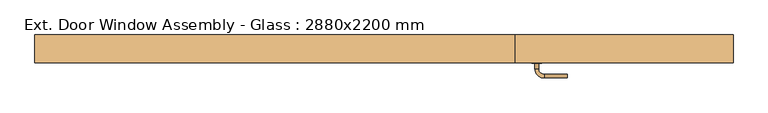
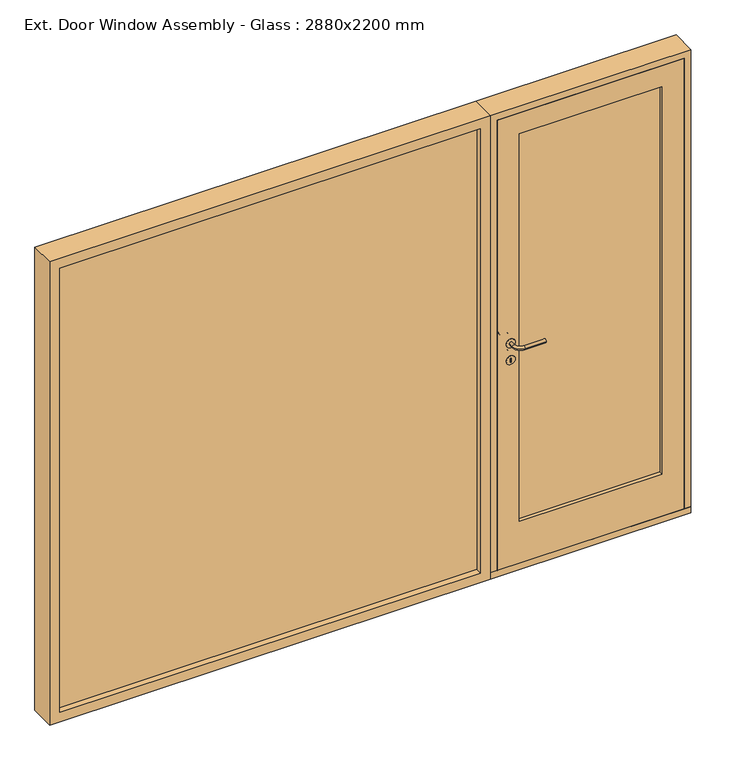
"""IFC4 building model written with IfcOpenShell, lengths in millimetres: door geometry, Ext. Door Window Assembly - Glass : 2880x2200 mm."""

from ifc_helpers import new_model, si_unit, point, frame, frame_2d, origin, place, context, project, spatial, polyline, circle_curve, ellipse_curve, trimmed, segment, composite_curve, outline, extrude, faceted_brep, source, transform, mapped, element, save
from ifc_brep_helpers import plane_surface, cylinder_surface, revolved_surface, advanced_brep


def ext_door_window_assembly_glass_2880x2200_mm_93a1fc79(model_context):
    return source(origin(), model_context, "Body", "SolidModel", [
        extrude(outline(polyline([(495.0, -140.0), (495.0, -162.0), (-1395.0, -162.0), (-1395.0, -140.0), (495.0, -140.0)])), frame((0.0, 0.0, 45.0), z_axis=(0.0, 0.0, 1.0), x_axis=(1.0, 0.0, 0.0)), (0.0, 0.0, 1.0), 2110.0),
        extrude(outline(polyline([(0.0, 540.0), (2200.0, 540.0), (2200.0, -1440.0), (0.0, -1440.0), (0.0, 540.0)]), holes=[polyline([(2155.0, 495.0), (45.0, 495.0), (45.0, -1395.0), (2155.0, -1395.0), (2155.0, 495.0)])]), frame((0.0, -190.0, 0.0), z_axis=(0.0, 1.0, 0.0), x_axis=(0.0, 0.0, 1.0)), (0.0, 0.0, 1.0), 115.0),
        extrude(outline(composite_curve([segment(trimmed(circle_curve(frame_2d((1090.0, 630.0)), 20.0), [point((1070.0, 630.0))], [point((1110.0, 630.0))], False, "CARTESIAN"), True, "CONTINUOUS"), segment(trimmed(circle_curve(frame_2d((1090.0, 630.0)), 20.0), [point((1110.0, 630.0))], [point((1070.0, 630.0))], False, "CARTESIAN"), True, "CONTINUOUS")], self_intersect=False)), frame((0.0, -192.0, 0.0), z_axis=(0.0, 1.0, 0.0), x_axis=(0.0, 0.0, 1.0)), (0.0, 0.0, 1.0), 2.0),
        advanced_brep(
        [(622.5, -192.0, 1090.0), (637.5, -192.0, 1090.0), (637.5, -214.5, 1090.0), (622.5, -214.5, 1090.0), (660.0, -237.0, 1090.0), (660.0, -252.0, 1090.0), (755.0, -237.0, 1090.0), (755.0, -252.0, 1090.0)],
        [
            (0, 1, circle_curve(frame((630.0, -192.0, 1090.0), z_axis=(0.0, 1.0, 0.0), x_axis=(1.0, 0.0, 0.0)), 7.5)),
            (1, 0, circle_curve(frame((630.0, -192.0, 1090.0), z_axis=(0.0, 1.0, 0.0), x_axis=(1.0, 0.0, 0.0)), 7.5)),
            (1, 2),
            (2, 3, circle_curve(frame((630.0, -214.5, 1090.0), z_axis=(0.0, 1.0, 0.0), x_axis=(1.0, 0.0, 0.0)), 7.5)),
            (3, 0),
            (3, 2, circle_curve(frame((630.0, -214.5, 1090.0), z_axis=(0.0, 1.0, 0.0), x_axis=(1.0, 0.0, 0.0)), 7.5)),
            (4, 5, circle_curve(frame((660.0, -244.5, 1090.0), z_axis=(-1.0, 0.0, 0.0), x_axis=(0.0, 1.0, 0.0)), 7.5)),
            (5, 3, circle_curve(frame((660.0, -214.5, 1090.0), z_axis=(0.0, 0.0, -1.0), x_axis=(-1.0, 0.0, 0.0)), 37.5)),
            (2, 4, circle_curve(frame((660.0, -214.5, 1090.0), z_axis=(0.0, 0.0, 1.0), x_axis=(-1.0, 0.0, 0.0)), 22.5)),
            (5, 4, circle_curve(frame((660.0, -244.5, 1090.0), z_axis=(-1.0, 0.0, 0.0), x_axis=(0.0, 1.0, 0.0)), 7.5)),
            (4, 6),
            (6, 7, circle_curve(frame((755.0, -244.5, 1090.0), z_axis=(-1.0, 0.0, 0.0), x_axis=(0.0, 1.0, 0.0)), 7.5)),
            (7, 5),
            (7, 6, circle_curve(frame((755.0, -244.5, 1090.0), z_axis=(-1.0, 0.0, 0.0), x_axis=(0.0, 1.0, 0.0)), 7.5)),
        ],
        [
            plane_surface(frame((630.0, -192.0, 1090.0), z_axis=(0.0, 1.0, 0.0), x_axis=(0.0, 0.0, -1.0))),
            cylinder_surface(frame((630.0, -192.0, 1090.0), z_axis=(0.0, 1.0, 0.0), x_axis=(1.0, 0.0, 0.0)), 7.5),
            revolved_surface(trimmed(ellipse_curve(frame((630.0, -214.5, 1090.0), z_axis=(0.0, -1.0, 0.0), x_axis=(1.0, 0.0, 0.0)), 7.5, 7.5), [point((622.5, -214.5, 1090.0))], [point((637.5, -214.5, 1090.0))], True, "CARTESIAN"), (660.0, -214.5, 1090.0), (0.0, 0.0, -1.0)),
            revolved_surface(trimmed(ellipse_curve(frame((630.0, -214.5, 1090.0), z_axis=(0.0, -1.0, 0.0), x_axis=(1.0, 0.0, 0.0)), 7.5, 7.5), [point((637.5, -214.5, 1090.0))], [point((622.5, -214.5, 1090.0))], True, "CARTESIAN"), (660.0, -214.5, 1090.0), (0.0, 0.0, -1.0)),
            cylinder_surface(frame((660.0, -244.5, 1090.0), z_axis=(-1.0, 0.0, 0.0), x_axis=(0.0, 1.0, 0.0)), 7.5),
            plane_surface(frame((755.0, -244.5, 1090.0), z_axis=(1.0, 0.0, 0.0), x_axis=(0.0, 0.0, -1.0))),
        ],
        [
            (0, [[1, 2]]),
            (1, [[3, 4, 5, -2]]),
            (1, [[-5, 6, -3, -1]]),
            (2, [[7, 8, -4, 9]]),
            (3, [[10, -9, -6, -8]]),
            (4, [[11, 12, 13, -7]]),
            (4, [[-13, 14, -11, -10]]),
            (5, [[-12, -14]]),
        ],
    ),
        extrude(outline(composite_curve([segment(trimmed(circle_curve(frame_2d((1010.0, 630.0)), 20.0), [point((990.0, 630.0))], [point((1030.0, 630.0))], False, "CARTESIAN"), True, "CONTINUOUS"), segment(trimmed(circle_curve(frame_2d((1010.0, 630.0)), 20.0), [point((1030.0, 630.0))], [point((990.0, 630.0))], False, "CARTESIAN"), True, "CONTINUOUS")], self_intersect=False), holes=[composite_curve([segment(trimmed(circle_curve(frame_2d((1015.0, 630.0)), 3.0), [point((1012.4019238, 628.5))], [point((1012.4019238, 631.5))], True, "CARTESIAN"), True, "CONTINUOUS"), segment(polyline([(1012.4019238, 631.5), (1000.0, 631.5), (1000.0, 628.5), (1012.4019238, 628.5)]), True, "CONTINUOUS")], self_intersect=False)]), frame((0.0, -192.0, 0.0), z_axis=(0.0, 1.0, 0.0), x_axis=(0.0, 0.0, 1.0)), (0.0, 0.0, 1.0), 2.0),
        extrude(outline(composite_curve([segment(trimmed(circle_curve(frame_2d((1090.0, 630.0)), 20.0), [point((1070.0, 630.0))], [point((1110.0, 630.0))], False, "CARTESIAN"), True, "CONTINUOUS"), segment(trimmed(circle_curve(frame_2d((1090.0, 630.0)), 20.0), [point((1110.0, 630.0))], [point((1070.0, 630.0))], False, "CARTESIAN"), True, "CONTINUOUS")], self_intersect=False)), frame((0.0, -140.0, 0.0), z_axis=(0.0, 1.0, 0.0), x_axis=(0.0, 0.0, 1.0)), (0.0, 0.0, 1.0), 2.0),
        advanced_brep(
        [(622.5, -138.0, 1090.0), (637.5, -138.0, 1090.0), (622.5, -115.5, 1090.0), (637.5, -115.5, 1090.0), (660.0, -93.0, 1090.0), (660.0, -78.0, 1090.0), (755.0, -78.0, 1090.0), (755.0, -93.0, 1090.0)],
        [
            (0, 1, circle_curve(frame((630.0, -138.0, 1090.0), z_axis=(0.0, -1.0, 0.0), x_axis=(1.0, 0.0, 0.0)), 7.5)),
            (1, 0, circle_curve(frame((630.0, -138.0, 1090.0), z_axis=(0.0, -1.0, 0.0), x_axis=(1.0, 0.0, 0.0)), 7.5)),
            (0, 2),
            (2, 3, circle_curve(frame((630.0, -115.5, 1090.0), z_axis=(0.0, -1.0, 0.0), x_axis=(1.0, 0.0, 0.0)), 7.5)),
            (3, 1),
            (3, 2, circle_curve(frame((630.0, -115.5, 1090.0), z_axis=(0.0, -1.0, 0.0), x_axis=(1.0, 0.0, 0.0)), 7.5)),
            (4, 3, circle_curve(frame((660.0, -115.5, 1090.0), z_axis=(0.0, 0.0, 1.0), x_axis=(-1.0, 0.0, 0.0)), 22.5)),
            (2, 5, circle_curve(frame((660.0, -115.5, 1090.0), z_axis=(0.0, 0.0, -1.0), x_axis=(-1.0, 0.0, 0.0)), 37.5)),
            (5, 4, circle_curve(frame((660.0, -85.5, 1090.0), z_axis=(-1.0, 0.0, 0.0), x_axis=(0.0, -1.0, 0.0)), 7.5)),
            (4, 5, circle_curve(frame((660.0, -85.5, 1090.0), z_axis=(-1.0, 0.0, 0.0), x_axis=(0.0, -1.0, 0.0)), 7.5)),
            (5, 6),
            (6, 7, circle_curve(frame((755.0, -85.5, 1090.0), z_axis=(-1.0, 0.0, 0.0), x_axis=(0.0, -1.0, 0.0)), 7.5)),
            (7, 4),
            (7, 6, circle_curve(frame((755.0, -85.5, 1090.0), z_axis=(-1.0, 0.0, 0.0), x_axis=(0.0, -1.0, 0.0)), 7.5)),
        ],
        [
            plane_surface(frame((630.0, -138.0, 1090.0), z_axis=(0.0, -1.0, 0.0), x_axis=(0.0, 0.0, -1.0))),
            cylinder_surface(frame((630.0, -138.0, 1090.0), z_axis=(0.0, -1.0, 0.0), x_axis=(1.0, 0.0, 0.0)), 7.5),
            revolved_surface(trimmed(ellipse_curve(frame((630.0, -115.5, 1090.0), z_axis=(0.0, -1.0, 0.0), x_axis=(1.0, 0.0, 0.0)), 7.5, 7.5), [point((622.5, -115.5, 1090.0))], [point((637.5, -115.5, 1090.0))], True, "CARTESIAN"), (660.0, -115.5, 1090.0), (0.0, 0.0, -1.0)),
            revolved_surface(trimmed(ellipse_curve(frame((630.0, -115.5, 1090.0), z_axis=(0.0, -1.0, 0.0), x_axis=(1.0, 0.0, 0.0)), 7.5, 7.5), [point((637.5, -115.5, 1090.0))], [point((622.5, -115.5, 1090.0))], True, "CARTESIAN"), (660.0, -115.5, 1090.0), (0.0, 0.0, -1.0)),
            cylinder_surface(frame((660.0, -85.5, 1090.0), z_axis=(-1.0, 0.0, 0.0), x_axis=(0.0, -1.0, 0.0)), 7.5),
            plane_surface(frame((755.0, -85.5, 1090.0), z_axis=(1.0, 0.0, 0.0), x_axis=(0.0, 0.0, -1.0))),
        ],
        [
            (0, [[1, 2]]),
            (1, [[-1, 3, 4, 5]]),
            (1, [[-2, -5, 6, -3]]),
            (2, [[7, -4, 8, 9]]),
            (3, [[-8, -6, -7, 10]]),
            (4, [[-9, 11, 12, 13]]),
            (4, [[-10, -13, 14, -11]]),
            (5, [[-14, -12]]),
        ],
    ),
        extrude(outline(composite_curve([segment(trimmed(circle_curve(frame_2d((1010.0, 630.0)), 20.0), [point((990.0, 630.0))], [point((1030.0, 630.0))], False, "CARTESIAN"), True, "CONTINUOUS"), segment(trimmed(circle_curve(frame_2d((1010.0, 630.0)), 20.0), [point((1030.0, 630.0))], [point((990.0, 630.0))], False, "CARTESIAN"), True, "CONTINUOUS")], self_intersect=False), holes=[composite_curve([segment(trimmed(circle_curve(frame_2d((1015.0, 630.0)), 3.0), [point((1012.4019238, 628.5))], [point((1012.4019238, 631.5))], True, "CARTESIAN"), True, "CONTINUOUS"), segment(polyline([(1012.4019238, 631.5), (1000.0, 631.5), (1000.0, 628.5), (1012.4019238, 628.5)]), True, "CONTINUOUS")], self_intersect=False)]), frame((0.0, -140.0, 0.0), z_axis=(0.0, 1.0, 0.0), x_axis=(0.0, 0.0, 1.0)), (0.0, 0.0, 1.0), 2.0),
        extrude(outline(polyline([(-140.0, 45.0), (-75.0, 45.0), (-75.0, 0.0), (-190.0, 0.0), (-190.0, 30.0), (-140.0, 30.0), (-140.0, 45.0)])), frame((540.0, 0.0, 0.0), z_axis=(1.0, 0.0, 0.0), x_axis=(0.0, 1.0, 0.0)), (0.0, 0.0, 1.0), 900.0),
        extrude(outline(polyline([(1310.0, -156.6666667), (1310.0, -173.3333333), (670.0, -173.3333333), (670.0, -156.6666667), (1310.0, -156.6666667)])), frame((0.0, 0.0, 230.0), z_axis=(0.0, 0.0, 1.0), x_axis=(1.0, 0.0, 0.0)), (0.0, 0.0, 1.0), 1840.0),
        faceted_brep([(570.0, -140.0, 2170.0), (570.0, -140.0, 45.0), (585.0, -140.0, 45.0), (585.0, -140.0, 2155.0), (1395.0, -140.0, 2155.0), (1395.0, -140.0, 45.0), (1410.0, -140.0, 45.0), (1410.0, -140.0, 2170.0), (570.0, -190.0, 2170.0), (570.0, -190.0, 30.0), (570.0, -140.0, 30.0), (1410.0, -140.0, 30.0), (1440.0, -140.0, 45.0), (1440.0, -140.0, 30.0), (540.0, -140.0, 30.0), (540.0, -140.0, 45.0), (540.0, -190.0, 30.0), (1440.0, -190.0, 30.0), (1410.0, -190.0, 30.0), (540.0, -190.0, 2200.0), (1410.0, -190.0, 2170.0), (1440.0, -190.0, 2200.0), (1395.0, -75.0, 45.0), (1440.0, -75.0, 45.0), (540.0, -75.0, 45.0), (585.0, -75.0, 45.0), (1395.0, -75.0, 2155.0), (585.0, -75.0, 2155.0), (540.0, -75.0, 2200.0), (1440.0, -75.0, 2200.0)], [[[0, 1, 2, 3, 4, 5, 6, 7]], [[8, 9, 10, 1, 0]], [[11, 6, 12, 13]], [[14, 15, 1, 10]], [[10, 9, 16, 14]], [[13, 17, 18, 11]], [[19, 16, 9, 8, 20, 18, 17, 21]], [[7, 6, 11, 18, 20]], [[6, 5, 22, 23, 12]], [[15, 24, 25, 2, 1]], [[26, 22, 5, 4]], [[3, 2, 25, 27]], [[27, 25, 24, 28, 29, 23, 22, 26]], [[21, 17, 13, 12, 23, 29]], [[28, 24, 15, 14, 16, 19]], [[0, 7, 20, 8]], [[3, 27, 26, 4]], [[28, 19, 21, 29]]]),
        extrude(outline(polyline([(2170.0, 570.0), (30.0, 570.0), (30.0, 1410.0), (2170.0, 1410.0), (2170.0, 570.0)]), holes=[polyline([(2070.0, 670.0), (2070.0, 1310.0), (230.0, 1310.0), (230.0, 670.0), (2070.0, 670.0)])]), frame((0.0, -190.0, 0.0), z_axis=(0.0, 1.0, 0.0), x_axis=(0.0, 0.0, 1.0)), (0.0, 0.0, 1.0), 50.0),
    ])


if __name__ == "__main__":
    model = new_model("IFC4")
    model_context = context("Model", 3, world=origin())
    ifc_project = project(units=[si_unit("LENGTHUNIT", "METRE", prefix="MILLI")], contexts=[model_context])
    site = spatial("IfcSite", under=ifc_project)
    building = spatial("IfcBuilding", under=site)
    placement = place(None, origin())
    ext_door_window_assembly_glass_2880x2200_mm_shape = ext_door_window_assembly_glass_2880x2200_mm_93a1fc79(model_context)
    element("IfcDoor", 1, ObjectType="Ext. Door Window Assembly - Glass : 2880x2200 mm", at=placement, inside=building, context=model_context, shape_type="MappedRepresentation", body=[
        mapped(ext_door_window_assembly_glass_2880x2200_mm_shape, transform((0.0, 0.0, 0.0), x_axis=(1.0, 0.0, 0.0), y_axis=(0.0, 1.0, 0.0), z_axis=(0.0, 0.0, 1.0))),
    ])
    save(model, "model.ifc")
